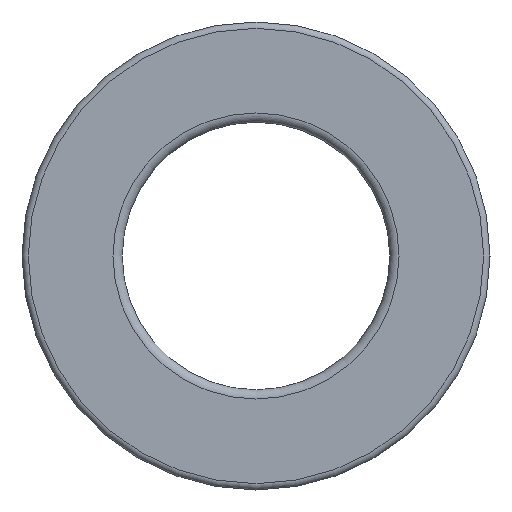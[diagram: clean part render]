
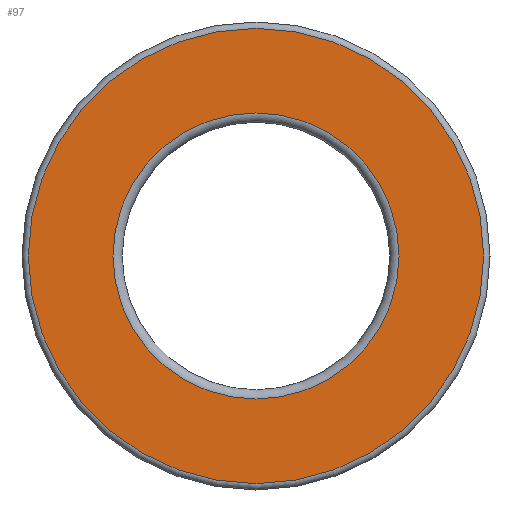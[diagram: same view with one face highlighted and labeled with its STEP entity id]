
A CAD part, left-side view. The second image highlights one B-rep face of the part: STEP entity #97.
In plain terms, the highlighted planar face has unit normal (-1, 0, 0).
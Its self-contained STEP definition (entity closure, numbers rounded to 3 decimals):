
#97=ADVANCED_FACE('',(#166,#167),#168,.F.);
#166=FACE_BOUND('',#238,.T.);
#167=FACE_OUTER_BOUND('',#239,.T.);
#168=PLANE('',#240);
#238=EDGE_LOOP('',(#354));
#239=EDGE_LOOP('',(#355));
#240=AXIS2_PLACEMENT_3D('',#356,#357,#358);
#354=ORIENTED_EDGE('',*,*,#386,.F.);
#355=ORIENTED_EDGE('',*,*,#387,.T.);
#356=CARTESIAN_POINT('',(0.0,13.619,0.0));
#357=DIRECTION('',(1.0,0.0,0.0));
#358=DIRECTION('',(0.0,0.0,-1.0));
#386=EDGE_CURVE('',#432,#432,#433,.T.);
#387=EDGE_CURVE('',#434,#434,#435,.T.);
#432=VERTEX_POINT('',#480);
#433=CIRCLE('',#481,8.558);
#434=VERTEX_POINT('',#482);
#435=CIRCLE('',#483,13.619);
#480=CARTESIAN_POINT('',(0.0,0.0,8.558));
#481=AXIS2_PLACEMENT_3D('',#550,#551,#552);
#482=CARTESIAN_POINT('',(0.0,0.0,13.619));
#483=AXIS2_PLACEMENT_3D('',#553,#554,#555);
#550=CARTESIAN_POINT('',(0.0,0.0,0.0));
#551=DIRECTION('',(-1.0,0.0,0.0));
#552=DIRECTION('',(0.0,0.0,1.0));
#553=CARTESIAN_POINT('',(0.0,0.0,0.0));
#554=DIRECTION('',(-1.0,0.0,0.0));
#555=DIRECTION('',(0.0,0.0,1.0));
